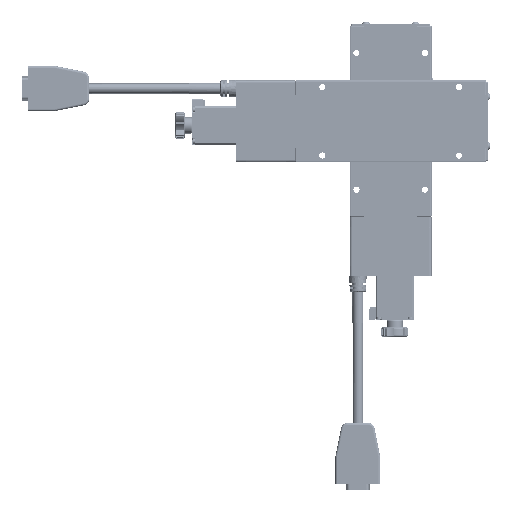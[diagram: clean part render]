
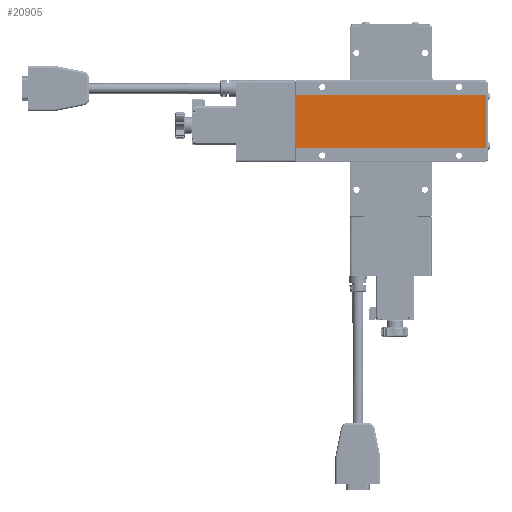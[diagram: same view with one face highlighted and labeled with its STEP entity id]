
A CAD part, front view. The second image highlights one B-rep face of the part: STEP entity #20905.
In plain terms, the highlighted planar face has unit normal (0, -1, 0).
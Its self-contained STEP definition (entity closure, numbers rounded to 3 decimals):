
#15147 = CARTESIAN_POINT ( 'NONE',  ( 19.3, -10.95, 23.267 ) ) ;
#16938 = ORIENTED_EDGE ( 'NONE', *, *, #276205, .T. ) ;
#20560 = VERTEX_POINT ( 'NONE', #180016 ) ;
#20905 = ADVANCED_FACE ( 'NONE', ( #121063 ), #446413, .F. ) ;
#22882 = CARTESIAN_POINT ( 'NONE',  ( 19.3, -10.95, 69.8 ) ) ;
#56866 = CARTESIAN_POINT ( 'NONE',  ( -6.433, -10.95, 69.8 ) ) ;
#60845 = ORIENTED_EDGE ( 'NONE', *, *, #98768, .T. ) ;
#65376 = CARTESIAN_POINT ( 'NONE',  ( -19.3, -10.95, -69.8 ) ) ;
#79854 = CARTESIAN_POINT ( 'NONE',  ( 19.3, -10.95, -69.8 ) ) ;
#86036 = B_SPLINE_CURVE_WITH_KNOTS ( 'NONE', 3,
 ( #199417, #165413, #15147, #240569 ),
 .UNSPECIFIED., .F., .F.,
 ( 4, 4 ),
 ( 0., 1. ),
 .UNSPECIFIED. ) ;
#98768 = EDGE_CURVE ( 'NONE', #339585, #20560, #86036, .T. ) ;
#119270 = B_SPLINE_CURVE_WITH_KNOTS ( 'NONE', 3,
 ( #22882, #282510, #56866, #200033 ),
 .UNSPECIFIED., .F., .F.,
 ( 4, 4 ),
 ( 0., 1. ),
 .UNSPECIFIED. ) ;
#121063 = FACE_OUTER_BOUND ( 'NONE', #392347, .T. ) ;
#157399 = DIRECTION ( 'NONE',  ( 0., 1., 0. ) ) ;
#158580 = CARTESIAN_POINT ( 'NONE',  ( -19.3, -10.95, -23.267 ) ) ;
#162725 = CARTESIAN_POINT ( 'NONE',  ( -19.3, -10.95, -69.8 ) ) ;
#165413 = CARTESIAN_POINT ( 'NONE',  ( 19.3, -10.95, -23.267 ) ) ;
#167498 = CARTESIAN_POINT ( 'NONE',  ( 6.433, -10.95, -69.8 ) ) ;
#180016 = CARTESIAN_POINT ( 'NONE',  ( 19.3, -10.95, 69.8 ) ) ;
#183309 = EDGE_CURVE ( 'NONE', #20560, #199712, #119270, .T. ) ;
#184471 = VERTEX_POINT ( 'NONE', #65376 ) ;
#192585 = CARTESIAN_POINT ( 'NONE',  ( -19.3, -10.95, -69.8 ) ) ;
#199417 = CARTESIAN_POINT ( 'NONE',  ( 19.3, -10.95, -69.8 ) ) ;
#199712 = VERTEX_POINT ( 'NONE', #255632 ) ;
#200033 = CARTESIAN_POINT ( 'NONE',  ( -19.3, -10.95, 69.8 ) ) ;
#228976 = CARTESIAN_POINT ( 'NONE',  ( -19.3, -10.95, 23.267 ) ) ;
#240569 = CARTESIAN_POINT ( 'NONE',  ( 19.3, -10.95, 69.8 ) ) ;
#255632 = CARTESIAN_POINT ( 'NONE',  ( -19.3, -10.95, 69.8 ) ) ;
#267816 = CARTESIAN_POINT ( 'NONE',  ( -19.3, -10.95, 69.8 ) ) ;
#276205 = EDGE_CURVE ( 'NONE', #199712, #184471, #368168, .T. ) ;
#282510 = CARTESIAN_POINT ( 'NONE',  ( 6.433, -10.95, 69.8 ) ) ;
#313213 = CARTESIAN_POINT ( 'NONE',  ( -6.433, -10.95, -69.8 ) ) ;
#318639 = AXIS2_PLACEMENT_3D ( 'NONE', #79854, #157399, #448803 ) ;
#339585 = VERTEX_POINT ( 'NONE', #430135 ) ;
#368168 = B_SPLINE_CURVE_WITH_KNOTS ( 'NONE', 3,
 ( #267816, #228976, #158580, #192585 ),
 .UNSPECIFIED., .F., .F.,
 ( 4, 4 ),
 ( 0., 1. ),
 .UNSPECIFIED. ) ;
#392347 = EDGE_LOOP ( 'NONE', ( #463238, #16938, #471344, #60845 ) ) ;
#412212 = EDGE_CURVE ( 'NONE', #184471, #339585, #467754, .T. ) ;
#430135 = CARTESIAN_POINT ( 'NONE',  ( 19.3, -10.95, -69.8 ) ) ;
#432044 = CARTESIAN_POINT ( 'NONE',  ( 19.3, -10.95, -69.8 ) ) ;
#446413 = PLANE ( 'NONE',  #318639 ) ;
#448803 = DIRECTION ( 'NONE',  ( 1., 0., 0. ) ) ;
#463238 = ORIENTED_EDGE ( 'NONE', *, *, #183309, .T. ) ;
#467754 = B_SPLINE_CURVE_WITH_KNOTS ( 'NONE', 3,
 ( #162725, #313213, #167498, #432044 ),
 .UNSPECIFIED., .F., .F.,
 ( 4, 4 ),
 ( 0., 1. ),
 .UNSPECIFIED. ) ;
#471344 = ORIENTED_EDGE ( 'NONE', *, *, #412212, .T. ) ;
